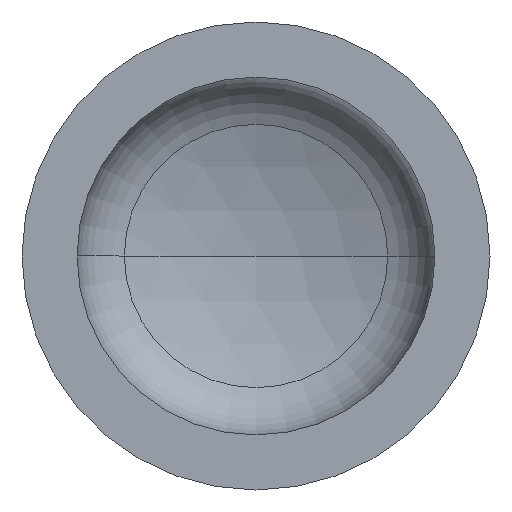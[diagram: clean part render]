
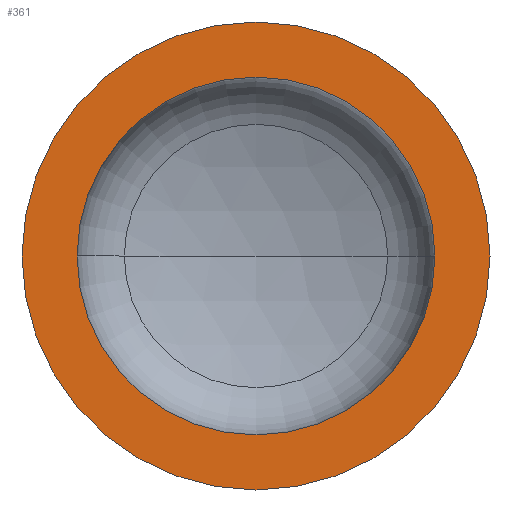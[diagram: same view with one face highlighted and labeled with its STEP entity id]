
A CAD part, front view. The second image highlights one B-rep face of the part: STEP entity #361.
In plain terms, the highlighted planar face has unit normal (0, -1, 0).
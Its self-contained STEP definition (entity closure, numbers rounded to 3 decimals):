
#1 = AXIS2_PLACEMENT_3D ( 'NONE', #155, #127, #158 ) ;
#3 = EDGE_LOOP ( 'NONE', ( #24, #128 ) ) ;
#4 = CARTESIAN_POINT ( 'NONE',  ( 450., 0., 0. ) ) ;
#24 = ORIENTED_EDGE ( 'NONE', *, *, #362, .T. ) ;
#32 = AXIS2_PLACEMENT_3D ( 'NONE', #169, #343, #202 ) ;
#34 = ORIENTED_EDGE ( 'NONE', *, *, #104, .F. ) ;
#39 = CIRCLE ( 'NONE', #32, 344. ) ;
#43 = VERTEX_POINT ( 'NONE', #263 ) ;
#48 = ORIENTED_EDGE ( 'NONE', *, *, #321, .F. ) ;
#71 = AXIS2_PLACEMENT_3D ( 'NONE', #368, #377, #316 ) ;
#74 = AXIS2_PLACEMENT_3D ( 'NONE', #341, #359, #358 ) ;
#103 = EDGE_CURVE ( 'NONE', #109, #126, #340, .T. ) ;
#104 = EDGE_CURVE ( 'NONE', #357, #43, #129, .T. ) ;
#109 = VERTEX_POINT ( 'NONE', #355 ) ;
#124 = AXIS2_PLACEMENT_3D ( 'NONE', #139, #143, #372 ) ;
#126 = VERTEX_POINT ( 'NONE', #4 ) ;
#127 = DIRECTION ( 'NONE',  ( 0., -1., 0. ) ) ;
#128 = ORIENTED_EDGE ( 'NONE', *, *, #103, .T. ) ;
#129 = CIRCLE ( 'NONE', #71, 344. ) ;
#139 = CARTESIAN_POINT ( 'NONE',  ( -450., 0., 0. ) ) ;
#143 = DIRECTION ( 'NONE',  ( 0., 1., 0. ) ) ;
#155 = CARTESIAN_POINT ( 'NONE',  ( 0., 0., 0. ) ) ;
#158 = DIRECTION ( 'NONE',  ( 1., 0., 0. ) ) ;
#169 = CARTESIAN_POINT ( 'NONE',  ( 0., 0., 0. ) ) ;
#179 = CARTESIAN_POINT ( 'NONE',  ( 344., 0., 0. ) ) ;
#202 = DIRECTION ( 'NONE',  ( 1., 0., 0. ) ) ;
#246 = FACE_BOUND ( 'NONE', #292, .T. ) ;
#263 = CARTESIAN_POINT ( 'NONE',  ( -344., 0., 0. ) ) ;
#291 = CIRCLE ( 'NONE', #1, 450. ) ;
#292 = EDGE_LOOP ( 'NONE', ( #34, #48 ) ) ;
#316 = DIRECTION ( 'NONE',  ( 1., 0., 0. ) ) ;
#321 = EDGE_CURVE ( 'NONE', #43, #357, #39, .T. ) ;
#340 = CIRCLE ( 'NONE', #74, 450. ) ;
#341 = CARTESIAN_POINT ( 'NONE',  ( 0., 0., 0. ) ) ;
#343 = DIRECTION ( 'NONE',  ( 0., -1., 0. ) ) ;
#355 = CARTESIAN_POINT ( 'NONE',  ( -450., 0., 0. ) ) ;
#357 = VERTEX_POINT ( 'NONE', #179 ) ;
#358 = DIRECTION ( 'NONE',  ( 1., 0., 0. ) ) ;
#359 = DIRECTION ( 'NONE',  ( 0., -1., 0. ) ) ;
#361 = ADVANCED_FACE ( 'NONE', ( #246, #405 ), #404, .F. ) ;
#362 = EDGE_CURVE ( 'NONE', #126, #109, #291, .T. ) ;
#368 = CARTESIAN_POINT ( 'NONE',  ( 0., 0., 0. ) ) ;
#372 = DIRECTION ( 'NONE',  ( -1., 0., 0. ) ) ;
#377 = DIRECTION ( 'NONE',  ( 0., -1., 0. ) ) ;
#404 = PLANE ( 'NONE',  #124 ) ;
#405 = FACE_OUTER_BOUND ( 'NONE', #3, .T. ) ;
